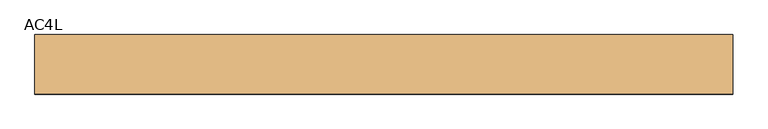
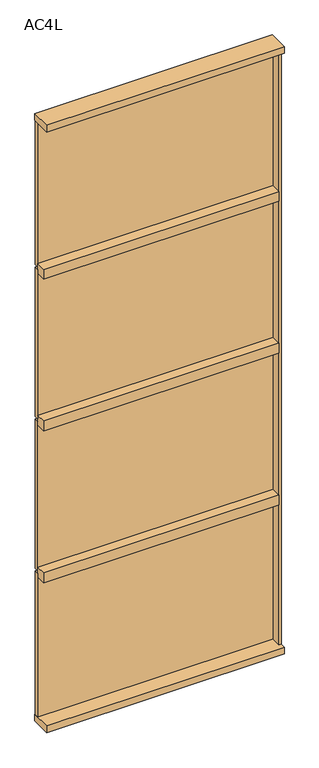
"""IFC4 building model written with IfcOpenShell, lengths in millimetres: door geometry, Mobiliário_Mobiliário de Escritório_Painel Lambri - AC4L (Complementar)_Marelli : AC4L."""

from ifc_helpers import new_model, si_unit, frame, origin, origin_with_axes, place, context, project, spatial, polyline, outline, extrude, source, transform, mapped, element, save


def ac4l_27b2dc08(model_context):
    return source(origin(), model_context, "Body", "SweptSolid", [
        extrude(outline(polyline([(500.0, 42.5), (500.0, -42.5), (-500.0, -42.5), (-500.0, 42.5), (500.0, 42.5)])), origin_with_axes(), (0.0, 0.0, 1.0), 30.0),
        extrude(outline(polyline([(490.0, 39.5), (490.0, 21.5), (-500.0, 21.5), (-500.0, 39.5), (490.0, 39.5)])), frame((0.0, 0.0, 30.0), z_axis=(0.0, 0.0, 1.0), x_axis=(1.0, 0.0, 0.0)), (0.0, 0.0, 1.0), 640.0),
        extrude(outline(polyline([(490.0, 21.5), (490.0, -21.5), (-500.0, -21.5), (-500.0, 21.5), (490.0, 21.5)])), frame((0.0, 0.0, 653.5), z_axis=(0.0, 0.0, 1.0), x_axis=(1.0, 0.0, 0.0)), (0.0, 0.0, 1.0), 43.0),
        extrude(outline(polyline([(500.0, 42.5), (500.0, -42.5), (-500.0, -42.5), (-500.0, 42.5), (500.0, 42.5)])), frame((0.0, 0.0, 2670.0), z_axis=(0.0, 0.0, 1.0), x_axis=(1.0, 0.0, 0.0)), (0.0, 0.0, 1.0), 30.0),
        extrude(outline(polyline([(490.0, 39.5), (490.0, 21.5), (-500.0, 21.5), (-500.0, 39.5), (490.0, 39.5)])), frame((0.0, 0.0, 1355.0), z_axis=(0.0, 0.0, 1.0), x_axis=(1.0, 0.0, 0.0)), (0.0, 0.0, 1.0), 665.0),
        extrude(outline(polyline([(490.0, 21.5), (490.0, -21.5), (-500.0, -21.5), (-500.0, 21.5), (490.0, 21.5)])), frame((0.0, 0.0, 2003.5), z_axis=(0.0, 0.0, 1.0), x_axis=(1.0, 0.0, 0.0)), (0.0, 0.0, 1.0), 43.0),
        extrude(outline(polyline([(490.0, 21.5), (490.0, -21.5), (-500.0, -21.5), (-500.0, 21.5), (490.0, 21.5)])), frame((0.0, 0.0, 1328.5), z_axis=(0.0, 0.0, 1.0), x_axis=(1.0, 0.0, 0.0)), (0.0, 0.0, 1.0), 43.0),
        extrude(outline(polyline([(500.0, -21.5), (490.0, -21.5), (490.0, 21.5), (500.0, 21.5), (500.0, -21.5)])), frame((0.0, 0.0, 30.0), z_axis=(0.0, 0.0, 1.0), x_axis=(1.0, 0.0, 0.0)), (0.0, 0.0, 1.0), 2640.0),
        extrude(outline(polyline([(490.0, 39.5), (490.0, 21.5), (-500.0, 21.5), (-500.0, 39.5), (490.0, 39.5)])), frame((0.0, 0.0, 2030.0), z_axis=(0.0, 0.0, 1.0), x_axis=(1.0, 0.0, 0.0)), (0.0, 0.0, 1.0), 640.0),
        extrude(outline(polyline([(490.0, 39.5), (490.0, 21.5), (-500.0, 21.5), (-500.0, 39.5), (490.0, 39.5)])), frame((0.0, 0.0, 680.0), z_axis=(0.0, 0.0, 1.0), x_axis=(1.0, 0.0, 0.0)), (0.0, 0.0, 1.0), 665.0),
    ])


if __name__ == "__main__":
    model = new_model("IFC4")
    model_context = context("Model", 3, world=origin())
    ifc_project = project(units=[si_unit("LENGTHUNIT", "METRE", prefix="MILLI")], contexts=[model_context])
    site = spatial("IfcSite", under=ifc_project)
    building = spatial("IfcBuilding", under=site)
    placement = place(None, origin())
    ac4l_shape = ac4l_27b2dc08(model_context)
    element("IfcDoor", 1, ObjectType="Mobiliário_Mobiliário de Escritório_Painel Lambri - AC4L (Complementar)_Marelli : AC4L", at=placement, inside=building, context=model_context, shape_type="MappedRepresentation", body=[
        mapped(ac4l_shape, transform((0.0, 0.0, 0.0), x_axis=(1.0, 0.0, 0.0), y_axis=(0.0, 1.0, 0.0), z_axis=(0.0, 0.0, 1.0))),
    ])
    save(model, "model.ifc")
